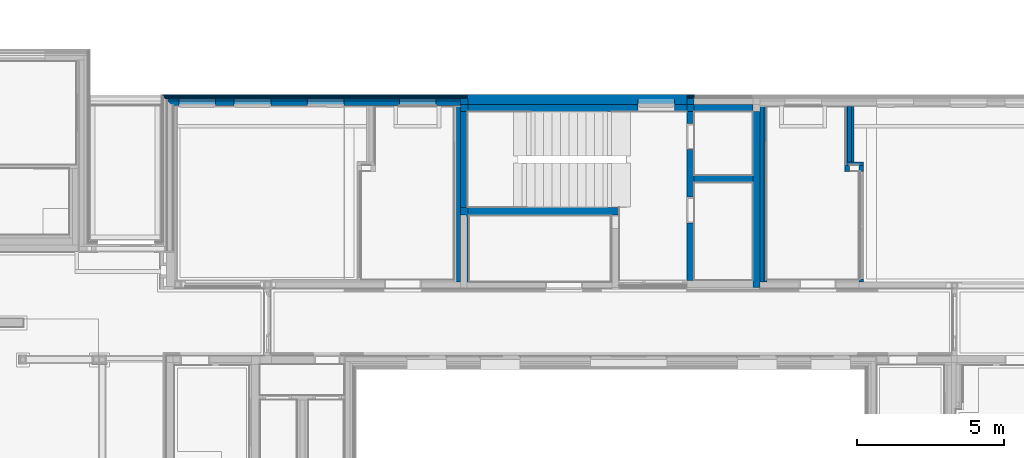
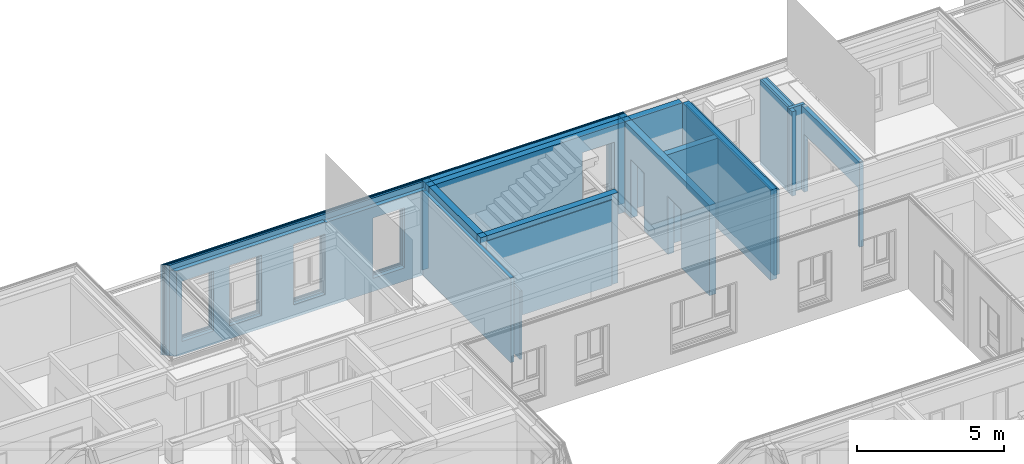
# One storey, part 38 of 222: 42 walls, 33 openings.
"""IFC4 building model written with IfcOpenShell, lengths in metres."""

from ifc_helpers import new_model, entity, si_unit, converted_unit, derived_unit, frame, frame_2d, origin, origin_with_axes, place, context, subcontext, project, spatial, polyline, rectangle, outline, extrude, clip, bounded_halfspace, material, element, save


model = new_model("IFC4")

# Units and contexts
model_context = context("Model", 3, precision=1e-05, world=origin())
body_context = subcontext(model_context, "Body", "Model", "MODEL_VIEW")
ifc_project = project(units=[si_unit("LENGTHUNIT", "METRE"), si_unit("AREAUNIT", "SQUARE_METRE"), si_unit("VOLUMEUNIT", "CUBIC_METRE"), si_unit("MASSUNIT", "GRAM", prefix="KILO"), converted_unit("PLANEANGLEUNIT", "DEGREE", entity("IfcPlaneAngleMeasure", 0.0174532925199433), si_unit("PLANEANGLEUNIT", "RADIAN"), dimensions=[0, 0, 0, 0, 0, 0, 0]), derived_unit("THERMALTRANSMITTANCEUNIT", [(si_unit("POWERUNIT", "WATT"), 1), (si_unit("THERMODYNAMICTEMPERATUREUNIT", "KELVIN"), -1), (si_unit("LENGTHUNIT", "METRE"), -2)]), derived_unit("VOLUMETRICFLOWRATEUNIT", [(si_unit("LENGTHUNIT", "METRE"), 3), (converted_unit("TIMEUNIT", "hour", entity("IfcTimeMeasure", 3600.0), si_unit("TIMEUNIT", "SECOND"), dimensions=[0, 0, 1, 0, 0, 0, 0]), -1), (si_unit("LENGTHUNIT", "METRE"), -1)])], contexts=[model_context])

# Site, building, storey
site_placement = place(None, origin())
site = spatial("IfcSite", under=ifc_project, at=site_placement, Name="Psychiatrie Neubau Wunstorf", CompositionType="ELEMENT")
building_placement = place(site_placement, origin())
building = spatial("IfcBuilding", under=site, at=building_placement, Name="Neubau H2 Stationsgebäude", CompositionType="ELEMENT")
storey_placement = place(building_placement, frame((0.0, 0.0, 3.6)))
storey = spatial("IfcBuildingStorey", under=building, at=storey_placement, Name="H2 Ebene +1", CompositionType="ELEMENT", Elevation=3.6)

# Wall, opening
ifc_material_1 = material(Name="WA-STB")
wall_1_placement = place(storey_placement, frame((48.15, 28.8949996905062, 0.0)))
wall_1 = element("IfcWall", 1, at=wall_1_placement, inside=storey, material=ifc_material_1, context=body_context, shape_type="SweptSolid", body=[
    extrude(rectangle(XDim=7.45, YDim=0.25, at=frame_2d((3.725, 0.125), x_axis=(1.0, 0.0))), origin_with_axes(), (0.0, 0.0, 1.0), 3.75),
])
opening_1_placement = place(wall_1_placement, frame((5.78750000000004, 0.0, 0.55), z_axis=(0.0, 1.0, 0.0), x_axis=(0.0, 0.0, 1.0)))
element("IfcOpeningElement", 2, at=opening_1_placement, cuts=wall_1, Name="Fensteröffnung", ObjectType="Opening", context=body_context, shape_type="SweptSolid", body=[
    extrude(outline(polyline([(2.5, 1.25), (2.5, 0.0), (0.0, 0.0), (0.0, 1.25), (2.5, 1.25)])), origin_with_axes(), (0.0, 0.0, 1.0), 0.25),
])

ifc_material_2 = material(Name="WA-DL")
wall_2_placement = place(storey_placement, frame((48.15, 29.1449996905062, 0.0)))
wall_2 = element("IfcWall", 3, at=wall_2_placement, inside=storey, material=ifc_material_2, context=body_context, shape_type="SweptSolid", body=[
    extrude(rectangle(XDim=7.45, YDim=0.21, at=frame_2d((3.725, 0.105), x_axis=(1.0, 0.0))), origin_with_axes(), (0.0, 0.0, 1.0), 3.75),
])
opening_2_placement = place(wall_2_placement, frame((5.78750000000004, 0.0, 0.55), z_axis=(0.0, 1.0, 0.0), x_axis=(0.0, 0.0, 1.0)))
element("IfcOpeningElement", 4, at=opening_2_placement, cuts=wall_2, Name="Fensteröffnung", ObjectType="Opening", context=body_context, shape_type="SweptSolid", body=[
    extrude(outline(polyline([(2.5, 1.25), (2.5, 0.0), (0.0, 0.0), (0.0, 1.25), (2.5, 1.25)])), origin_with_axes(), (0.0, 0.0, 1.0), 0.21),
])

ifc_material_3 = material(Name="WA-LB")
wall_3_placement = place(storey_placement, frame((48.15, 29.3549996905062, 0.0)))
wall_3 = element("IfcWall", 5, at=wall_3_placement, inside=storey, material=ifc_material_3, context=body_context, shape_type="SweptSolid", body=[
    extrude(rectangle(XDim=7.45, YDim=0.021, at=frame_2d((3.725, 0.0105), x_axis=(1.0, 0.0))), origin_with_axes(), (0.0, 0.0, 1.0), 3.75),
])
opening_3_placement = place(wall_3_placement, frame((5.78750000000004, 0.0, 0.55), z_axis=(0.0, 1.0, 0.0), x_axis=(0.0, 0.0, 1.0)))
element("IfcOpeningElement", 6, at=opening_3_placement, cuts=wall_3, Name="Fensteröffnung", ObjectType="Opening", context=body_context, shape_type="SweptSolid", body=[
    extrude(outline(polyline([(2.5, 1.25), (2.5, 0.0), (0.0, 0.0), (0.0, 1.25), (2.5, 1.25)])), origin_with_axes(), (0.0, 0.0, 1.0), 0.021),
])

ifc_material_4 = material(Name="WA-KL")
wall_4_placement = place(storey_placement, frame((48.15, 29.3759996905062, 0.0)))
wall_4 = element("IfcWall", 7, at=wall_4_placement, inside=storey, material=ifc_material_4, context=body_context, shape_type="SweptSolid", body=[
    extrude(rectangle(XDim=7.45, YDim=0.024, at=frame_2d((3.725, 0.012), x_axis=(1.0, 0.0))), origin_with_axes(), (0.0, 0.0, 1.0), 3.75),
])
opening_4_placement = place(wall_4_placement, frame((5.78750000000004, 0.0, 0.55), z_axis=(0.0, 1.0, 0.0), x_axis=(0.0, 0.0, 1.0)))
element("IfcOpeningElement", 8, at=opening_4_placement, cuts=wall_4, Name="Fensteröffnung", ObjectType="Opening", context=body_context, shape_type="SweptSolid", body=[
    extrude(outline(polyline([(2.5, 1.25), (2.5, 0.0), (0.0, 0.0), (0.0, 1.25), (2.5, 1.25)])), origin_with_axes(), (0.0, 0.0, 1.0), 0.024),
])

ifc_material_5 = material(Name="WA-TL")
wall_5_placement = place(storey_placement, frame((48.15, 29.3999996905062, 0.0)))
wall_5 = element("IfcWall", 9, at=wall_5_placement, inside=storey, material=ifc_material_5, context=body_context, shape_type="SweptSolid", body=[
    extrude(rectangle(XDim=7.45, YDim=0.024, at=frame_2d((3.725, 0.012), x_axis=(1.0, 0.0))), origin_with_axes(), (0.0, 0.0, 1.0), 3.75),
])
opening_5_placement = place(wall_5_placement, frame((5.78750000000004, 0.0, 0.55), z_axis=(0.0, 1.0, 0.0), x_axis=(0.0, 0.0, 1.0)))
element("IfcOpeningElement", 10, at=opening_5_placement, cuts=wall_5, Name="Fensteröffnung", ObjectType="Opening", context=body_context, shape_type="SweptSolid", body=[
    extrude(outline(polyline([(2.5, 1.25), (2.5, 0.0), (0.0, 0.0), (0.0, 1.25), (2.5, 1.25)])), origin_with_axes(), (0.0, 0.0, 1.0), 0.024),
])

ifc_material_6 = material(Name="WA-HS")
wall_6_placement = place(storey_placement, frame((48.15, 29.4239996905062, 0.0)))
wall_6 = element("IfcWall", 11, at=wall_6_placement, inside=storey, material=ifc_material_6, context=body_context, shape_type="SweptSolid", body=[
    extrude(rectangle(XDim=7.45, YDim=0.042, at=frame_2d((3.725, 0.021), x_axis=(1.0, 0.0))), origin_with_axes(), (0.0, 0.0, 1.0), 3.75),
])
opening_6_placement = place(wall_6_placement, frame((5.78750000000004, 0.0, 0.55), z_axis=(0.0, 1.0, 0.0), x_axis=(0.0, 0.0, 1.0)))
element("IfcOpeningElement", 12, at=opening_6_placement, cuts=wall_6, Name="Fensteröffnung", ObjectType="Opening", context=body_context, shape_type="SweptSolid", body=[
    extrude(outline(polyline([(2.5, 1.25), (2.5, 0.0), (0.0, 0.0), (0.0, 1.25), (2.5, 1.25)])), origin_with_axes(), (0.0, 0.0, 1.0), 0.042),
])

# Walls
ifc_material_7 = material(Name="WA-STB")
wall_7_placement = place(storey_placement, frame((55.85, 28.8949996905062, 0.0)))
element("IfcWall", 13, at=wall_7_placement, inside=storey, material=ifc_material_7, context=body_context, shape_type="SweptSolid", body=[
    extrude(rectangle(XDim=2.0, YDim=0.25, at=frame_2d((1.0, 0.125), x_axis=(1.0, 0.0))), origin_with_axes(), (0.0, 0.0, 1.0), 3.75),
])
ifc_material_8 = material(Name="WA-STB")
wall_8_placement = place(storey_placement, frame((55.6, 28.8949996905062, 0.0)))
element("IfcWall", 14, at=wall_8_placement, inside=storey, material=ifc_material_8, context=body_context, shape_type="SweptSolid", body=[
    extrude(rectangle(XDim=0.25, YDim=0.25, at=frame_2d((0.125, 0.125), x_axis=(1.0, 0.0))), origin_with_axes(), (0.0, 0.0, 1.0), 3.75),
])
ifc_material_9 = material(Name="WA-DL")
wall_9_placement = place(storey_placement, frame((55.6, 29.1449996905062, 0.0)))
element("IfcWall", 15, at=wall_9_placement, inside=storey, material=ifc_material_9, context=body_context, shape_type="SweptSolid", body=[
    extrude(rectangle(XDim=0.25, YDim=0.21, at=frame_2d((0.125, 0.105), x_axis=(1.0, 0.0))), origin_with_axes(), (0.0, 0.0, 1.0), 3.75),
])
ifc_material_10 = material(Name="WA-LB")
wall_10_placement = place(storey_placement, frame((55.6, 29.3549996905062, 0.0)))
element("IfcWall", 16, at=wall_10_placement, inside=storey, material=ifc_material_10, context=body_context, shape_type="SweptSolid", body=[
    extrude(rectangle(XDim=0.25, YDim=0.021, at=frame_2d((0.125, 0.0105), x_axis=(1.0, 0.0))), origin_with_axes(), (0.0, 0.0, 1.0), 3.75),
])
ifc_material_11 = material(Name="WA-KL")
wall_11_placement = place(storey_placement, frame((55.6, 29.3759996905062, 0.0)))
element("IfcWall", 17, at=wall_11_placement, inside=storey, material=ifc_material_11, context=body_context, shape_type="SweptSolid", body=[
    extrude(rectangle(XDim=0.25, YDim=0.024, at=frame_2d((0.125, 0.012), x_axis=(1.0, 0.0))), origin_with_axes(), (0.0, 0.0, 1.0), 3.75),
])
ifc_material_12 = material(Name="WA-TL")
wall_12_placement = place(storey_placement, frame((55.6, 29.3999996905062, 0.0)))
element("IfcWall", 18, at=wall_12_placement, inside=storey, material=ifc_material_12, context=body_context, shape_type="SweptSolid", body=[
    extrude(rectangle(XDim=0.25, YDim=0.024, at=frame_2d((0.125, 0.012), x_axis=(1.0, 0.0))), origin_with_axes(), (0.0, 0.0, 1.0), 3.75),
])
ifc_material_13 = material(Name="WA-HS")
wall_13_placement = place(storey_placement, frame((55.6, 29.4239996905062, 0.0)))
element("IfcWall", 19, at=wall_13_placement, inside=storey, material=ifc_material_13, context=body_context, shape_type="SweptSolid", body=[
    extrude(rectangle(XDim=0.25, YDim=0.042, at=frame_2d((0.125, 0.021), x_axis=(1.0, 0.0))), origin_with_axes(), (0.0, 0.0, 1.0), 3.75),
])
ifc_material_14 = material(Name="WA-STB")
wall_14_placement = place(storey_placement, frame((47.9, 28.8949996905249, 0.0)))
element("IfcWall", 20, at=wall_14_placement, inside=storey, material=ifc_material_14, context=body_context, shape_type="SweptSolid", body=[
    extrude(rectangle(XDim=0.25, YDim=0.25, at=frame_2d((0.125, 0.125), x_axis=(1.0, 0.0))), origin_with_axes(), (0.0, 0.0, 1.0), 3.75),
])
ifc_material_15 = material(Name="WA-DL")
wall_15_placement = place(storey_placement, frame((47.9, 29.1449996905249, 0.0)))
element("IfcWall", 21, at=wall_15_placement, inside=storey, material=ifc_material_15, context=body_context, shape_type="SweptSolid", body=[
    extrude(rectangle(XDim=0.25, YDim=0.21, at=frame_2d((0.125, 0.105), x_axis=(1.0, 0.0))), origin_with_axes(), (0.0, 0.0, 1.0), 3.75),
])
ifc_material_16 = material(Name="WA-LB")
wall_16_placement = place(storey_placement, frame((47.9, 29.3549996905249, 0.0)))
element("IfcWall", 22, at=wall_16_placement, inside=storey, material=ifc_material_16, context=body_context, shape_type="SweptSolid", body=[
    extrude(rectangle(XDim=0.25, YDim=0.021, at=frame_2d((0.125, 0.0105), x_axis=(1.0, 0.0))), origin_with_axes(), (0.0, 0.0, 1.0), 3.75),
])
ifc_material_17 = material(Name="WA-KL")
wall_17_placement = place(storey_placement, frame((47.9, 29.3759996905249, 0.0)))
element("IfcWall", 23, at=wall_17_placement, inside=storey, material=ifc_material_17, context=body_context, shape_type="SweptSolid", body=[
    extrude(rectangle(XDim=0.25, YDim=0.024, at=frame_2d((0.125, 0.012), x_axis=(1.0, 0.0))), origin_with_axes(), (0.0, 0.0, 1.0), 3.75),
])
ifc_material_18 = material(Name="WA-TL")
wall_18_placement = place(storey_placement, frame((47.9, 29.3999996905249, 0.0)))
element("IfcWall", 24, at=wall_18_placement, inside=storey, material=ifc_material_18, context=body_context, shape_type="SweptSolid", body=[
    extrude(rectangle(XDim=0.25, YDim=0.024, at=frame_2d((0.125, 0.012), x_axis=(1.0, 0.0))), origin_with_axes(), (0.0, 0.0, 1.0), 3.75),
])
ifc_material_19 = material(Name="WA-HS")
wall_19_placement = place(storey_placement, frame((47.9, 29.4239996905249, 0.0)))
element("IfcWall", 25, at=wall_19_placement, inside=storey, material=ifc_material_19, context=body_context, shape_type="SweptSolid", body=[
    extrude(rectangle(XDim=0.25, YDim=0.042, at=frame_2d((0.125, 0.021), x_axis=(1.0, 0.0))), origin_with_axes(), (0.0, 0.0, 1.0), 3.75),
])

# Wall, openings
ifc_material_20 = material(Name="WA-HD")
wall_20_placement = place(storey_placement, frame((38.1061268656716, 29.0999996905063, 0.0)))
wall_20 = element("IfcWall", 26, at=wall_20_placement, inside=storey, material=ifc_material_20, context=body_context, shape_type="Clipping", body=[
    clip(extrude(outline(polyline([(0.183880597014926, 0.0), (9.97775373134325, 0.0), (9.97775373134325, 0.16), (0.0, 0.16), (0.183880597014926, 0.0)])), frame((-0.183880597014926, 0.0, 0.0), z_axis=(0.0, 0.0, 1.0), x_axis=(1.0, 0.0, 0.0)), (0.0, 0.0, 1.0), 3.55), bounded_halfspace(frame((7.81262313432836, 0.08, 3.51), z_axis=(0.0, 0.0, -1.0), x_axis=(1.0, 0.0, 0.0)), True, origin_with_axes(), polyline([(5.83137313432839, 0.0), (9.79387313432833, 0.0), (9.79387313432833, 0.16), (5.83137313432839, 0.16), (5.83137313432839, 0.0)]))),
])
opening_7_placement = place(wall_20_placement, frame((5.83137313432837, 0.16, 0.55), z_axis=(0.0, -1.0, 0.0), x_axis=(0.0, 0.0, 1.0)))
element("IfcOpeningElement", 27, at=opening_7_placement, cuts=wall_20, Name="Fensteröffnung", ObjectType="Opening", context=body_context, shape_type="SweptSolid", body=[
    extrude(outline(polyline([(2.5, 1.25), (2.5, 0.0), (0.0, 0.0), (0.0, 1.25), (2.5, 1.25)])), origin_with_axes(), (0.0, 0.0, 1.0), 0.16),
])
opening_8_placement = place(wall_20_placement, frame((3.33137313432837, 0.16, 0.55), z_axis=(0.0, -1.0, 0.0), x_axis=(0.0, 0.0, 1.0)))
element("IfcOpeningElement", 28, at=opening_8_placement, cuts=wall_20, Name="Fensteröffnung", ObjectType="Opening", context=body_context, shape_type="SweptSolid", body=[
    extrude(outline(polyline([(2.5, 1.25), (2.5, 0.0), (0.0, 0.0), (0.0, 1.25), (2.5, 1.25)])), origin_with_axes(), (0.0, 0.0, 1.0), 0.16),
])
opening_9_placement = place(wall_20_placement, frame((8.95637313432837, 0.16, 0.55), z_axis=(0.0, -1.0, 0.0), x_axis=(0.0, 0.0, 1.0)))
element("IfcOpeningElement", 29, at=opening_9_placement, cuts=wall_20, Name="Fensteröffnung", ObjectType="Opening", context=body_context, shape_type="SweptSolid", body=[
    extrude(outline(polyline([(2.5, 1.25), (2.5, 0.0), (0.0, 0.0), (0.0, 1.25), (2.5, 1.25)])), origin_with_axes(), (0.0, 0.0, 1.0), 0.16),
])
opening_10_placement = place(wall_20_placement, frame((1.45637313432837, 0.16, 0.55), z_axis=(0.0, -1.0, 0.0), x_axis=(0.0, 0.0, 1.0)))
element("IfcOpeningElement", 30, at=opening_10_placement, cuts=wall_20, Name="Fensteröffnung", ObjectType="Opening", context=body_context, shape_type="SweptSolid", body=[
    extrude(outline(polyline([(2.5, 1.25), (2.5, 0.0), (0.0, 0.0), (0.0, 1.25), (2.5, 1.25)])), origin_with_axes(), (0.0, 0.0, 1.0), 0.16),
])

ifc_material_21 = material(Name="WA-DL")
wall_21_placement = place(storey_placement, frame((37.9222462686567, 29.2599996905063, 0.0)))
wall_21 = element("IfcWall", 31, at=wall_21_placement, inside=storey, material=ifc_material_21, context=body_context, shape_type="SweptSolid", body=[
    extrude(outline(polyline([(0.091940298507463, 0.0), (10.0696940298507, 0.0), (10.0696940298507, 0.08), (0.0, 0.08), (0.091940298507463, 0.0)])), frame((-0.091940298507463, 0.0, 0.0), z_axis=(0.0, 0.0, 1.0), x_axis=(1.0, 0.0, 0.0)), (0.0, 0.0, 1.0), 3.75),
])
opening_11_placement = place(wall_21_placement, frame((1.6402537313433, 0.08, 0.55), z_axis=(0.0, -1.0, 0.0), x_axis=(0.0, 0.0, 1.0)))
element("IfcOpeningElement", 32, at=opening_11_placement, cuts=wall_21, Name="Fensteröffnung", ObjectType="Opening", context=body_context, shape_type="SweptSolid", body=[
    extrude(outline(polyline([(2.5, 1.25), (2.5, 0.0), (0.0, 0.0), (0.0, 1.25), (2.5, 1.25)])), origin_with_axes(), (0.0, 0.0, 1.0), 0.08),
])
opening_12_placement = place(wall_21_placement, frame((9.1402537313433, 0.08, 0.55), z_axis=(0.0, -1.0, 0.0), x_axis=(0.0, 0.0, 1.0)))
element("IfcOpeningElement", 33, at=opening_12_placement, cuts=wall_21, Name="Fensteröffnung", ObjectType="Opening", context=body_context, shape_type="SweptSolid", body=[
    extrude(outline(polyline([(2.5, 1.25), (2.5, 0.0), (0.0, 0.0), (0.0, 1.25), (2.5, 1.25)])), origin_with_axes(), (0.0, 0.0, 1.0), 0.08),
])
opening_13_placement = place(wall_21_placement, frame((6.0152537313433, 0.08, 0.55), z_axis=(0.0, -1.0, 0.0), x_axis=(0.0, 0.0, 1.0)))
element("IfcOpeningElement", 34, at=opening_13_placement, cuts=wall_21, Name="Fensteröffnung", ObjectType="Opening", context=body_context, shape_type="SweptSolid", body=[
    extrude(outline(polyline([(2.5, 1.25), (2.5, 0.0), (0.0, 0.0), (0.0, 1.25), (2.5, 1.25)])), origin_with_axes(), (0.0, 0.0, 1.0), 0.08),
])
opening_14_placement = place(wall_21_placement, frame((3.5152537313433, 0.08, 0.55), z_axis=(0.0, -1.0, 0.0), x_axis=(0.0, 0.0, 1.0)))
element("IfcOpeningElement", 35, at=opening_14_placement, cuts=wall_21, Name="Fensteröffnung", ObjectType="Opening", context=body_context, shape_type="SweptSolid", body=[
    extrude(outline(polyline([(2.5, 1.25), (2.5, 0.0), (0.0, 0.0), (0.0, 1.25), (2.5, 1.25)])), origin_with_axes(), (0.0, 0.0, 1.0), 0.08),
])

ifc_material_22 = material(Name="WA-LB")
wall_22_placement = place(storey_placement, frame((37.8303059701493, 29.3399996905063, 0.0)))
wall_22 = element("IfcWall", 36, at=wall_22_placement, inside=storey, material=ifc_material_22, context=body_context, shape_type="SweptSolid", body=[
    extrude(outline(polyline([(0.041373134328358, 0.0), (10.1110671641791, 0.0), (10.1110671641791, 0.036), (0.0, 0.036), (0.041373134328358, 0.0)])), frame((-0.041373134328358, 0.0, 0.0), z_axis=(0.0, 0.0, 1.0), x_axis=(1.0, 0.0, 0.0)), (0.0, 0.0, 1.0), 3.75),
])
opening_15_placement = place(wall_22_placement, frame((6.10719402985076, 0.036, 0.55), z_axis=(0.0, -1.0, 0.0), x_axis=(0.0, 0.0, 1.0)))
element("IfcOpeningElement", 37, at=opening_15_placement, cuts=wall_22, Name="Fensteröffnung", ObjectType="Opening", context=body_context, shape_type="SweptSolid", body=[
    extrude(outline(polyline([(2.5, 1.25), (2.5, 0.0), (0.0, 0.0), (0.0, 1.25), (2.5, 1.25)])), origin_with_axes(), (0.0, 0.0, 1.0), 0.036),
])
opening_16_placement = place(wall_22_placement, frame((3.60719402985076, 0.036, 0.55), z_axis=(0.0, -1.0, 0.0), x_axis=(0.0, 0.0, 1.0)))
element("IfcOpeningElement", 38, at=opening_16_placement, cuts=wall_22, Name="Fensteröffnung", ObjectType="Opening", context=body_context, shape_type="SweptSolid", body=[
    extrude(outline(polyline([(2.5, 1.25), (2.5, 0.0), (0.0, 0.0), (0.0, 1.25), (2.5, 1.25)])), origin_with_axes(), (0.0, 0.0, 1.0), 0.036),
])
opening_17_placement = place(wall_22_placement, frame((1.73219402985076, 0.036, 0.55), z_axis=(0.0, -1.0, 0.0), x_axis=(0.0, 0.0, 1.0)))
element("IfcOpeningElement", 39, at=opening_17_placement, cuts=wall_22, Name="Fensteröffnung", ObjectType="Opening", context=body_context, shape_type="SweptSolid", body=[
    extrude(outline(polyline([(2.5, 1.25), (2.5, 0.0), (0.0, 0.0), (0.0, 1.25), (2.5, 1.25)])), origin_with_axes(), (0.0, 0.0, 1.0), 0.036),
])
opening_18_placement = place(wall_22_placement, frame((9.23219402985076, 0.036, 0.55), z_axis=(0.0, -1.0, 0.0), x_axis=(0.0, 0.0, 1.0)))
element("IfcOpeningElement", 40, at=opening_18_placement, cuts=wall_22, Name="Fensteröffnung", ObjectType="Opening", context=body_context, shape_type="SweptSolid", body=[
    extrude(outline(polyline([(2.5, 1.25), (2.5, 0.0), (0.0, 0.0), (0.0, 1.25), (2.5, 1.25)])), origin_with_axes(), (0.0, 0.0, 1.0), 0.036),
])

ifc_material_23 = material(Name="WA-KL")
wall_23_placement = place(storey_placement, frame((37.7889328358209, 29.3759996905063, 0.0)))
wall_23 = element("IfcWall", 41, at=wall_23_placement, inside=storey, material=ifc_material_23, context=body_context, shape_type="SweptSolid", body=[
    extrude(outline(polyline([(0.0275820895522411, 0.0), (10.1386492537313, 0.0), (10.1386492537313, 0.024), (0.0, 0.024), (0.0275820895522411, 0.0)])), frame((-0.0275820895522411, 0.0, 0.0), z_axis=(0.0, 0.0, 1.0), x_axis=(1.0, 0.0, 0.0)), (0.0, 0.0, 1.0), 3.75),
])
opening_19_placement = place(wall_23_placement, frame((9.27356716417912, 0.024, 0.55), z_axis=(0.0, -1.0, 0.0), x_axis=(0.0, 0.0, 1.0)))
element("IfcOpeningElement", 42, at=opening_19_placement, cuts=wall_23, Name="Fensteröffnung", ObjectType="Opening", context=body_context, shape_type="SweptSolid", body=[
    extrude(outline(polyline([(2.5, 1.25), (2.5, 0.0), (0.0, 0.0), (0.0, 1.25), (2.5, 1.25)])), origin_with_axes(), (0.0, 0.0, 1.0), 0.024),
])
opening_20_placement = place(wall_23_placement, frame((1.77356716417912, 0.024, 0.55), z_axis=(0.0, -1.0, 0.0), x_axis=(0.0, 0.0, 1.0)))
element("IfcOpeningElement", 43, at=opening_20_placement, cuts=wall_23, Name="Fensteröffnung", ObjectType="Opening", context=body_context, shape_type="SweptSolid", body=[
    extrude(outline(polyline([(2.5, 1.25), (2.5, 0.0), (0.0, 0.0), (0.0, 1.25), (2.5, 1.25)])), origin_with_axes(), (0.0, 0.0, 1.0), 0.024),
])
opening_21_placement = place(wall_23_placement, frame((6.14856716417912, 0.024, 0.55), z_axis=(0.0, -1.0, 0.0), x_axis=(0.0, 0.0, 1.0)))
element("IfcOpeningElement", 44, at=opening_21_placement, cuts=wall_23, Name="Fensteröffnung", ObjectType="Opening", context=body_context, shape_type="SweptSolid", body=[
    extrude(outline(polyline([(2.5, 1.25), (2.5, 0.0), (0.0, 0.0), (0.0, 1.25), (2.5, 1.25)])), origin_with_axes(), (0.0, 0.0, 1.0), 0.024),
])
opening_22_placement = place(wall_23_placement, frame((3.64856716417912, 0.024, 0.55), z_axis=(0.0, -1.0, 0.0), x_axis=(0.0, 0.0, 1.0)))
element("IfcOpeningElement", 45, at=opening_22_placement, cuts=wall_23, Name="Fensteröffnung", ObjectType="Opening", context=body_context, shape_type="SweptSolid", body=[
    extrude(outline(polyline([(2.5, 1.25), (2.5, 0.0), (0.0, 0.0), (0.0, 1.25), (2.5, 1.25)])), origin_with_axes(), (0.0, 0.0, 1.0), 0.024),
])

ifc_material_24 = material(Name="WA-TL")
wall_24_placement = place(storey_placement, frame((37.7613507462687, 29.3999996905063, 0.0)))
wall_24 = element("IfcWall", 46, at=wall_24_placement, inside=storey, material=ifc_material_24, context=body_context, shape_type="SweptSolid", body=[
    extrude(outline(polyline([(0.0275820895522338, 0.0), (10.1662313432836, 0.0), (10.1662313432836, 0.024), (0.0, 0.024), (0.0275820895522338, 0.0)])), frame((-0.0275820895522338, 0.0, 0.0), z_axis=(0.0, 0.0, 1.0), x_axis=(1.0, 0.0, 0.0)), (0.0, 0.0, 1.0), 3.75),
])
opening_23_placement = place(wall_24_placement, frame((3.67614925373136, 0.024, 0.55), z_axis=(0.0, -1.0, 0.0), x_axis=(0.0, 0.0, 1.0)))
element("IfcOpeningElement", 47, at=opening_23_placement, cuts=wall_24, Name="Fensteröffnung", ObjectType="Opening", context=body_context, shape_type="SweptSolid", body=[
    extrude(outline(polyline([(2.5, 1.25), (2.5, 0.0), (0.0, 0.0), (0.0, 1.25), (2.5, 1.25)])), origin_with_axes(), (0.0, 0.0, 1.0), 0.024),
])
opening_24_placement = place(wall_24_placement, frame((1.80114925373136, 0.024, 0.55), z_axis=(0.0, -1.0, 0.0), x_axis=(0.0, 0.0, 1.0)))
element("IfcOpeningElement", 48, at=opening_24_placement, cuts=wall_24, Name="Fensteröffnung", ObjectType="Opening", context=body_context, shape_type="SweptSolid", body=[
    extrude(outline(polyline([(2.5, 1.25), (2.5, 0.0), (0.0, 0.0), (0.0, 1.25), (2.5, 1.25)])), origin_with_axes(), (0.0, 0.0, 1.0), 0.024),
])
opening_25_placement = place(wall_24_placement, frame((9.30114925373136, 0.024, 0.55), z_axis=(0.0, -1.0, 0.0), x_axis=(0.0, 0.0, 1.0)))
element("IfcOpeningElement", 49, at=opening_25_placement, cuts=wall_24, Name="Fensteröffnung", ObjectType="Opening", context=body_context, shape_type="SweptSolid", body=[
    extrude(outline(polyline([(2.5, 1.25), (2.5, 0.0), (0.0, 0.0), (0.0, 1.25), (2.5, 1.25)])), origin_with_axes(), (0.0, 0.0, 1.0), 0.024),
])
opening_26_placement = place(wall_24_placement, frame((6.17614925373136, 0.024, 0.55), z_axis=(0.0, -1.0, 0.0), x_axis=(0.0, 0.0, 1.0)))
element("IfcOpeningElement", 50, at=opening_26_placement, cuts=wall_24, Name="Fensteröffnung", ObjectType="Opening", context=body_context, shape_type="SweptSolid", body=[
    extrude(outline(polyline([(2.5, 1.25), (2.5, 0.0), (0.0, 0.0), (0.0, 1.25), (2.5, 1.25)])), origin_with_axes(), (0.0, 0.0, 1.0), 0.024),
])

ifc_material_25 = material(Name="WA-HS")
wall_25_placement = place(storey_placement, frame((37.7337686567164, 29.4239996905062, 0.0)))
wall_25 = element("IfcWall", 51, at=wall_25_placement, inside=storey, material=ifc_material_25, context=body_context, shape_type="SweptSolid", body=[
    extrude(outline(polyline([(0.0482686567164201, 0.0), (10.2145, 0.0), (10.2145, 0.042), (0.0, 0.042), (0.0482686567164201, 0.0)])), frame((-0.0482686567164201, 0.0, 0.0), z_axis=(0.0, 0.0, 1.0), x_axis=(1.0, 0.0, 0.0)), (0.0, 0.0, 1.0), 3.75),
])
opening_27_placement = place(wall_25_placement, frame((9.32873134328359, 0.042, 0.55), z_axis=(0.0, -1.0, 0.0), x_axis=(0.0, 0.0, 1.0)))
element("IfcOpeningElement", 52, at=opening_27_placement, cuts=wall_25, Name="Fensteröffnung", ObjectType="Opening", context=body_context, shape_type="SweptSolid", body=[
    extrude(outline(polyline([(2.5, 1.25), (2.5, 0.0), (0.0, 0.0), (0.0, 1.25), (2.5, 1.25)])), origin_with_axes(), (0.0, 0.0, 1.0), 0.042),
])
opening_28_placement = place(wall_25_placement, frame((3.70373134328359, 0.042, 0.55), z_axis=(0.0, -1.0, 0.0), x_axis=(0.0, 0.0, 1.0)))
element("IfcOpeningElement", 53, at=opening_28_placement, cuts=wall_25, Name="Fensteröffnung", ObjectType="Opening", context=body_context, shape_type="SweptSolid", body=[
    extrude(outline(polyline([(2.5, 1.25), (2.5, 0.0), (0.0, 0.0), (0.0, 1.25), (2.5, 1.25)])), origin_with_axes(), (0.0, 0.0, 1.0), 0.042),
])
opening_29_placement = place(wall_25_placement, frame((1.82873134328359, 0.042, 0.55), z_axis=(0.0, -1.0, 0.0), x_axis=(0.0, 0.0, 1.0)))
element("IfcOpeningElement", 54, at=opening_29_placement, cuts=wall_25, Name="Fensteröffnung", ObjectType="Opening", context=body_context, shape_type="SweptSolid", body=[
    extrude(outline(polyline([(2.5, 1.25), (2.5, 0.0), (0.0, 0.0), (0.0, 1.25), (2.5, 1.25)])), origin_with_axes(), (0.0, 0.0, 1.0), 0.042),
])
opening_30_placement = place(wall_25_placement, frame((6.20373134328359, 0.042, 0.55), z_axis=(0.0, -1.0, 0.0), x_axis=(0.0, 0.0, 1.0)))
element("IfcOpeningElement", 55, at=opening_30_placement, cuts=wall_25, Name="Fensteröffnung", ObjectType="Opening", context=body_context, shape_type="SweptSolid", body=[
    extrude(outline(polyline([(2.5, 1.25), (2.5, 0.0), (0.0, 0.0), (0.0, 1.25), (2.5, 1.25)])), origin_with_axes(), (0.0, 0.0, 1.0), 0.042),
])

# Wall, opening
ifc_material_26 = material(Name="WI-LB")
wall_26_placement = place(storey_placement, frame((61.464, 27.0639996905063, 0.0), z_axis=(0.0, 0.0, 1.0), x_axis=(0.0, -1.0, 0.0)))
wall_26 = element("IfcWall", 56, at=wall_26_placement, inside=storey, material=ifc_material_26, context=body_context, shape_type="SweptSolid", body=[
    extrude(rectangle(XDim=3.96799969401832, YDim=0.15, at=frame_2d((1.98399984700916, 0.075), x_axis=(1.0, 0.0))), origin_with_axes(), (0.0, 0.0, 1.0), 3.51),
])
opening_31_placement = place(wall_26_placement, frame((0.200000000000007, 0.0, 0.0), z_axis=(0.0, 1.0, 0.0), x_axis=(0.0, 0.0, 1.0)))
element("IfcOpeningElement", 57, at=opening_31_placement, cuts=wall_26, Name="Türöffnung", ObjectType="Opening", context=body_context, shape_type="SweptSolid", body=[
    extrude(outline(polyline([(2.41, 3.668), (2.41, 0.0), (0.0, 0.0), (0.0, 3.668), (2.41, 3.668)])), origin_with_axes(), (0.0, 0.0, 1.0), 0.15),
])

# Walls
ifc_material_27 = material(Name="WI-STB")
wall_27_placement = place(storey_placement, frame((57.85, 28.8949996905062, 0.0), z_axis=(0.0, 0.0, 1.0), x_axis=(3.64404721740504e-15, -1.0, 0.0)))
element("IfcWall", 58, at=wall_27_placement, inside=storey, material=ifc_material_27, context=body_context, shape_type="SweptSolid", body=[
    extrude(rectangle(XDim=5.99000823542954, YDim=0.25, at=frame_2d((2.99500411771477, 0.125), x_axis=(1.0, 0.0))), origin_with_axes(), (0.0, 0.0, 1.0), 3.75),
])
ifc_material_28 = material(Name="WA-STB")
wall_28_placement = place(storey_placement, frame((57.85, 26.7249998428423, 0.0), z_axis=(0.0, 0.0, 1.0), x_axis=(-1.0, 3.87404725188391e-10, 0.0)))
element("IfcWall", 59, at=wall_28_placement, inside=storey, material=ifc_material_28, context=body_context, shape_type="SweptSolid", body=[
    extrude(rectangle(XDim=1.99999999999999, YDim=0.25, at=frame_2d((0.999999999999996, 0.125), x_axis=(1.0, 0.0))), origin_with_axes(), (0.0, 0.0, 1.0), 3.75),
])
ifc_material_29 = material(Name="WI-LB")
wall_29_placement = place(storey_placement, frame((61.614, 27.1889996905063, 0.0), z_axis=(0.0, 0.0, 1.0), x_axis=(-1.0, -5.82076609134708e-15, 0.0)))
element("IfcWall", 60, at=wall_29_placement, inside=storey, material=ifc_material_29, context=body_context, shape_type="SweptSolid", body=[
    extrude(rectangle(XDim=0.624999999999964, YDim=0.125, at=frame_2d((0.312499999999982, 0.0625), x_axis=(1.0, 0.0))), origin_with_axes(), (0.0, 0.0, 1.0), 3.51),
])
ifc_material_30 = material(Name="WI-LB")
wall_30_placement = place(storey_placement, frame((60.989, 27.0639996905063, 0.0), z_axis=(0.0, 0.0, 1.0), x_axis=(0.0, -1.0, 0.0)))
element("IfcWall", 61, at=wall_30_placement, inside=storey, material=ifc_material_30, context=body_context, shape_type="SweptSolid", body=[
    extrude(rectangle(XDim=0.199999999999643, YDim=0.15, at=frame_2d((0.0999999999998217, 0.075), x_axis=(1.0, 0.0))), origin_with_axes(), (0.0, 0.0, 1.0), 3.51),
])
ifc_material_31 = material(Name="Installationsraum")
wall_31_placement = place(storey_placement, frame((47.889, 23.0959999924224, 0.0), z_axis=(0.0, 0.0, 1.0), x_axis=(0.0, 1.0, 0.0)))
element("IfcWall", 62, at=wall_31_placement, inside=storey, material=ifc_material_31, context=body_context, shape_type="SweptSolid", body=[
    extrude(rectangle(XDim=5.96799969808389, YDim=0.125, at=frame_2d((2.98399984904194, 0.0625), x_axis=(1.0, 0.0))), origin_with_axes(), (0.0, 0.0, 1.0), 3.51),
])
ifc_material_32 = material(Name="WI-IW")
wall_32_placement = place(storey_placement, frame((48.196, 23.0959999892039, 0.0), z_axis=(0.0, 0.0, 1.0), x_axis=(0.0, 1.0, 0.0)))
element("IfcWall", 63, at=wall_32_placement, inside=storey, material=ifc_material_32, context=body_context, shape_type="SweptSolid", body=[
    extrude(rectangle(XDim=2.28900000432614, YDim=0.075, at=frame_2d((1.14450000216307, 0.0375), x_axis=(1.0, 0.0))), origin_with_axes(), (0.0, 0.0, 1.0), 2.85),
])
ifc_material_33 = material(Name="Installationsraum")
wall_33_placement = place(storey_placement, frame((58.1, 29.0639996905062, 0.0), z_axis=(0.0, 0.0, 1.0), x_axis=(0.0, -1.0, 0.0)))
element("IfcWall", 64, at=wall_33_placement, inside=storey, material=ifc_material_33, context=body_context, shape_type="SweptSolid", body=[
    extrude(rectangle(XDim=5.96799969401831, YDim=0.125, at=frame_2d((2.98399984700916, 0.0625), x_axis=(1.0, 0.0))), origin_with_axes(), (0.0, 0.0, 1.0), 3.51),
])
ifc_material_34 = material(Name="WI-VS")
wall_34_placement = place(storey_placement, frame((58.225, 29.0639996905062, 0.0), z_axis=(0.0, 0.0, 1.0), x_axis=(0.0, -1.0, 0.0)))
element("IfcWall", 65, at=wall_34_placement, inside=storey, material=ifc_material_34, context=body_context, shape_type="SweptSolid", body=[
    extrude(rectangle(XDim=5.96799969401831, YDim=0.1, at=frame_2d((2.98399984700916, 0.05), x_axis=(1.0, 0.0))), origin_with_axes(), (0.0, 0.0, 1.0), 3.51),
])
ifc_material_35 = material(Name="WI-IW")
wall_35_placement = place(storey_placement, frame((61.289, 27.1889996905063, 0.0), z_axis=(0.0, 0.0, 1.0), x_axis=(0.0, 1.0, 0.0)))
element("IfcWall", 66, at=wall_35_placement, inside=storey, material=ifc_material_35, context=body_context, shape_type="SweptSolid", body=[
    extrude(rectangle(XDim=1.875, YDim=0.075, at=frame_2d((0.937499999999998, 0.0375), x_axis=(1.0, 0.0))), origin_with_axes(), (0.0, 0.0, 1.0), 3.51),
])
ifc_material_36 = material(Name="Installationsraum")
wall_36_placement = place(storey_placement, frame((61.214, 27.1889996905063, 0.0), z_axis=(0.0, 0.0, 1.0), x_axis=(0.0, 1.0, 0.0)))
element("IfcWall", 67, at=wall_36_placement, inside=storey, material=ifc_material_36, context=body_context, shape_type="SweptSolid", body=[
    extrude(rectangle(XDim=1.875, YDim=0.15, at=frame_2d((0.937499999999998, 0.075), x_axis=(1.0, 0.0))), origin_with_axes(), (0.0, 0.0, 1.0), 3.51),
])
ifc_material_37 = material(Name="WI-IW")
wall_37_placement = place(storey_placement, frame((61.064, 27.1889996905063, 0.0), z_axis=(0.0, 0.0, 1.0), x_axis=(0.0, 1.0, 0.0)))
element("IfcWall", 68, at=wall_37_placement, inside=storey, material=ifc_material_37, context=body_context, shape_type="SweptSolid", body=[
    extrude(rectangle(XDim=1.875, YDim=0.075, at=frame_2d((0.937499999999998, 0.0375), x_axis=(1.0, 0.0))), origin_with_axes(), (0.0, 0.0, 1.0), 3.51),
])

# Wall, openings
ifc_material_38 = material(Name="WA-STB")
wall_38_placement = place(storey_placement, frame((55.6, 28.8949996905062, 0.0), z_axis=(0.0, 0.0, 1.0), x_axis=(3.80275984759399e-15, -1.0, 0.0)))
wall_38 = element("IfcWall", 69, at=wall_38_placement, inside=storey, material=ifc_material_38, context=body_context, shape_type="SweptSolid", body=[
    extrude(rectangle(XDim=5.74000823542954, YDim=0.25, at=frame_2d((2.87000411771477, 0.125), x_axis=(1.0, 0.0))), origin_with_axes(), (0.0, 0.0, 1.0), 3.75),
])
opening_32_placement = place(wall_38_placement, frame((3.79499984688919, 0.25, 0.0), z_axis=(-3.63797880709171e-15, -1.0, 0.0), x_axis=(0.0, 0.0, 1.0)))
element("IfcOpeningElement", 70, at=opening_32_placement, cuts=wall_38, Name="Türöffnung", ObjectType="Opening", context=body_context, shape_type="SweptSolid", body=[
    extrude(outline(polyline([(2.41, 0.885), (2.41, 0.0), (0.0, 0.0), (0.0, 0.885), (2.41, 0.885)])), origin_with_axes(), (0.0, 0.0, 1.0), 0.25),
])
opening_33_placement = place(wall_38_placement, frame((1.29499999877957, 0.249999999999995, 0.0), z_axis=(-3.63797880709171e-15, -1.0, 0.0), x_axis=(0.0, 0.0, 1.0)))
element("IfcOpeningElement", 71, at=opening_33_placement, cuts=wall_38, Name="Türöffnung", ObjectType="Opening", context=body_context, shape_type="SweptSolid", body=[
    extrude(outline(polyline([(2.41, 0.885), (2.41, 0.0), (0.0, 0.0), (0.0, 0.885), (2.41, 0.885)])), origin_with_axes(), (0.0, 0.0, 1.0), 0.25),
])

# Walls
ifc_material_39 = material(Name="WI-STB")
wall_39_placement = place(storey_placement, frame((47.9, 28.8949996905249, 0.0), z_axis=(0.0, 0.0, 1.0), x_axis=(0.0, -1.0, 0.0)))
element("IfcWall", 72, at=wall_39_placement, inside=storey, material=ifc_material_39, context=body_context, shape_type="SweptSolid", body=[
    extrude(rectangle(XDim=3.25999969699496, YDim=0.25, at=frame_2d((1.62999984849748, 0.125), x_axis=(1.0, 0.0))), origin_with_axes(), (0.0, 0.0, 1.0), 3.75),
])
ifc_material_40 = material(Name="WI-STB")
wall_40_placement = place(storey_placement, frame((53.3, 25.6349999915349, 0.0), z_axis=(0.0, 0.0, 1.0), x_axis=(-1.0, 0.0, 0.0)))
element("IfcWall", 73, at=wall_40_placement, inside=storey, material=ifc_material_40, context=body_context, shape_type="SweptSolid", body=[
    extrude(rectangle(XDim=5.15000000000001, YDim=0.250000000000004, at=frame_2d((2.57500000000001, 0.125000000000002), x_axis=(1.0, 0.0))), origin_with_axes(), (0.0, 0.0, 1.0), 3.75),
])
ifc_material_41 = material(Name="WI-LB")
wall_41_placement = place(storey_placement, frame((53.05, 25.3849999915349, 0.0), z_axis=(0.0, 0.0, 1.0), x_axis=(-1.0, 0.0, 0.0)))
element("IfcWall", 74, at=wall_41_placement, inside=storey, material=ifc_material_41, context=body_context, shape_type="SweptSolid", body=[
    extrude(rectangle(XDim=4.92900000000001, YDim=0.0299996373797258, at=frame_2d((2.46450000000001, 0.0149998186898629), x_axis=(1.0, 0.0))), origin_with_axes(), (0.0, 0.0, 1.0), 3.55),
])
ifc_material_42 = material(Name="WI-STB")
wall_42_placement = place(storey_placement, frame((48.15, 25.6349999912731, 0.0), z_axis=(0.0, 0.0, 1.0), x_axis=(-1.0, 9.02771716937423e-09, 0.0)))
element("IfcWall", 75, at=wall_42_placement, inside=storey, material=ifc_material_42, context=body_context, shape_type="SweptSolid", body=[
    extrude(rectangle(XDim=0.25, YDim=0.25, at=frame_2d((0.125, 0.125), x_axis=(1.0, 0.0))), origin_with_axes(), (0.0, 0.0, 1.0), 3.75),
])

save(model, "model.ifc")
